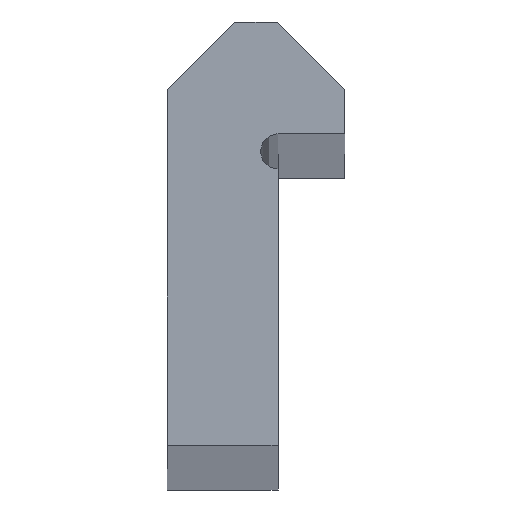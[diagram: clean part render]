
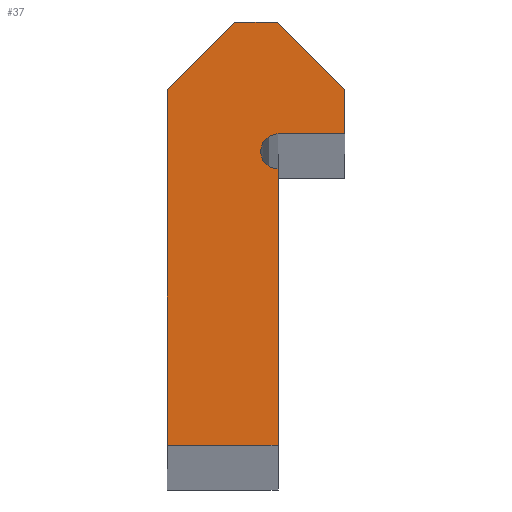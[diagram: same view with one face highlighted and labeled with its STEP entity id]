
A CAD part, top view. The second image highlights one B-rep face of the part: STEP entity #37.
In plain terms, the highlighted planar face has unit normal (0, 0, 1).
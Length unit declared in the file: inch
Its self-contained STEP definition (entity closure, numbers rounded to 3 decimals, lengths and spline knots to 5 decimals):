
#37 = ADVANCED_FACE( '', ( #77 ), #78, .T. );
#77 = FACE_OUTER_BOUND( '', #117, .T. );
#78 = PLANE( '', #118 );
#117 = EDGE_LOOP( '', ( #156, #157, #158, #159, #160, #161, #162, #163, #164 ) );
#118 = AXIS2_PLACEMENT_3D( '', #165, #166, #167 );
#156 = ORIENTED_EDGE( '', *, *, #251, .T. );
#157 = ORIENTED_EDGE( '', *, *, #252, .T. );
#158 = ORIENTED_EDGE( '', *, *, #253, .T. );
#159 = ORIENTED_EDGE( '', *, *, #254, .T. );
#160 = ORIENTED_EDGE( '', *, *, #255, .F. );
#161 = ORIENTED_EDGE( '', *, *, #256, .T. );
#162 = ORIENTED_EDGE( '', *, *, #257, .T. );
#163 = ORIENTED_EDGE( '', *, *, #246, .T. );
#164 = ORIENTED_EDGE( '', *, *, #258, .T. );
#165 = CARTESIAN_POINT( '', ( 0.156, 0.413, 0. ) );
#166 = DIRECTION( '', ( 0., 0., 1. ) );
#167 = DIRECTION( '', ( 1., 0., 0. ) );
#246 = EDGE_CURVE( '', #284, #285, #286, .T. );
#251 = EDGE_CURVE( '', #293, #294, #295, .T. );
#252 = EDGE_CURVE( '', #294, #296, #297, .T. );
#253 = EDGE_CURVE( '', #296, #298, #299, .T. );
#254 = EDGE_CURVE( '', #298, #300, #301, .T. );
#255 = EDGE_CURVE( '', #302, #300, #303, .T. );
#256 = EDGE_CURVE( '', #302, #304, #305, .T. );
#257 = EDGE_CURVE( '', #304, #284, #306, .T. );
#258 = EDGE_CURVE( '', #285, #293, #307, .T. );
#284 = VERTEX_POINT( '', #340 );
#285 = VERTEX_POINT( '', #341 );
#286 = LINE( '', #342, #343 );
#293 = VERTEX_POINT( '', #353 );
#294 = VERTEX_POINT( '', #354 );
#295 = LINE( '', #355, #356 );
#296 = VERTEX_POINT( '', #357 );
#297 = LINE( '', #358, #359 );
#298 = VERTEX_POINT( '', #360 );
#299 = LINE( '', #361, #362 );
#300 = VERTEX_POINT( '', #363 );
#301 = LINE( '', #364, #365 );
#302 = VERTEX_POINT( '', #366 );
#303 = CIRCLE( '', #367, 0.025 );
#304 = VERTEX_POINT( '', #368 );
#305 = LINE( '', #369, #370 );
#306 = LINE( '', #371, #372 );
#307 = LINE( '', #373, #374 );
#340 = CARTESIAN_POINT( '', ( 0.25, 0.5, 0. ) );
#341 = CARTESIAN_POINT( '', ( 0.155, 0.595, 0. ) );
#342 = CARTESIAN_POINT( '', ( 0.25, 0.5, 0. ) );
#343 = VECTOR( '', #420, 39.37008 );
#353 = CARTESIAN_POINT( '', ( 0.095, 0.595, 0. ) );
#354 = CARTESIAN_POINT( '', ( 0., 0.5, 0. ) );
#355 = CARTESIAN_POINT( '', ( 0.095, 0.595, 0. ) );
#356 = VECTOR( '', #424, 39.37008 );
#357 = CARTESIAN_POINT( '', ( 0., 0., 0. ) );
#358 = CARTESIAN_POINT( '', ( 0., 0.5, 0. ) );
#359 = VECTOR( '', #425, 39.37008 );
#360 = CARTESIAN_POINT( '', ( 0.156, 0., 0. ) );
#361 = CARTESIAN_POINT( '', ( 0., 0., 0. ) );
#362 = VECTOR( '', #426, 39.37008 );
#363 = CARTESIAN_POINT( '', ( 0.156, 0.388, 0. ) );
#364 = CARTESIAN_POINT( '', ( 0.156, 0., 0. ) );
#365 = VECTOR( '', #427, 39.37008 );
#366 = CARTESIAN_POINT( '', ( 0.156, 0.438, 0. ) );
#367 = AXIS2_PLACEMENT_3D( '', #428, #429, #430 );
#368 = CARTESIAN_POINT( '', ( 0.25, 0.438, 0. ) );
#369 = CARTESIAN_POINT( '', ( 0.156, 0.438, 0. ) );
#370 = VECTOR( '', #431, 39.37008 );
#371 = CARTESIAN_POINT( '', ( 0.25, 0.438, 0. ) );
#372 = VECTOR( '', #432, 39.37008 );
#373 = CARTESIAN_POINT( '', ( 0.155, 0.595, 0. ) );
#374 = VECTOR( '', #433, 39.37008 );
#420 = DIRECTION( '', ( -0.707, 0.707, 0. ) );
#424 = DIRECTION( '', ( -0.707, -0.707, 0. ) );
#425 = DIRECTION( '', ( 0., -1., 0. ) );
#426 = DIRECTION( '', ( 1., 0., 0. ) );
#427 = DIRECTION( '', ( 0., 1., 0. ) );
#428 = CARTESIAN_POINT( '', ( 0.156, 0.413, 0. ) );
#429 = DIRECTION( '', ( 0., 0., 1. ) );
#430 = DIRECTION( '', ( 1., 0., 0. ) );
#431 = DIRECTION( '', ( 1., 0., 0. ) );
#432 = DIRECTION( '', ( 0., 1., 0. ) );
#433 = DIRECTION( '', ( -1., 0., 0. ) );
